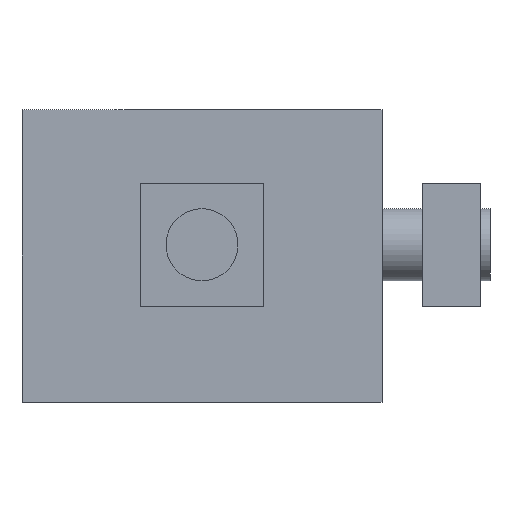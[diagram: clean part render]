
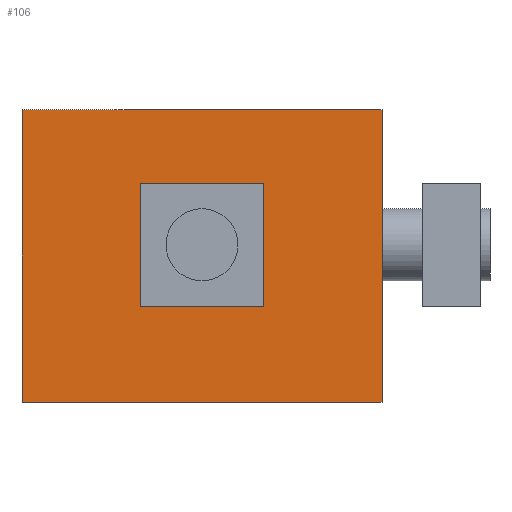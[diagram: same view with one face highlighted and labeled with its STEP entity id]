
A CAD part, left-side view. The second image highlights one B-rep face of the part: STEP entity #106.
In plain terms, the highlighted planar face has unit normal (-1, 0, 0).
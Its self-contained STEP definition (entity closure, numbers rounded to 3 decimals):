
#38=FACE_BOUND($,#273,.T.);
#106=ADVANCED_FACE($,(#182,#38),#1022,.T.);
#182=FACE_OUTER_BOUND($,#272,.T.);
#272=EDGE_LOOP($,(#584,#585,#586,#587));
#273=EDGE_LOOP($,(#588,#589));
#584=ORIENTED_EDGE($,*,*,#851,.T.);
#585=ORIENTED_EDGE($,*,*,#850,.T.);
#586=ORIENTED_EDGE($,*,*,#849,.F.);
#587=ORIENTED_EDGE($,*,*,#843,.F.);
#588=ORIENTED_EDGE($,*,*,#752,.T.);
#589=ORIENTED_EDGE($,*,*,#814,.T.);
#752=EDGE_CURVE($,#925,#927,#1102,.T.);
#814=EDGE_CURVE($,#927,#925,#1122,.T.);
#843=EDGE_CURVE($,#985,#986,#1242,.T.);
#849=EDGE_CURVE($,#986,#988,#1248,.T.);
#850=EDGE_CURVE($,#990,#988,#1249,.T.);
#851=EDGE_CURVE($,#985,#990,#1250,.T.);
#925=VERTEX_POINT($,#3446);
#927=VERTEX_POINT($,#3448);
#985=VERTEX_POINT($,#3506);
#986=VERTEX_POINT($,#3507);
#988=VERTEX_POINT($,#3509);
#990=VERTEX_POINT($,#3511);
#1022=PLANE($,#1381);
#1102=(
BOUNDED_CURVE()
B_SPLINE_CURVE(2,(#1860,#1861,#1862,#1863,#1864),.UNSPECIFIED.,.F.,.F.)
B_SPLINE_CURVE_WITH_KNOTS((3,2,3),(0.,7.069,14.137),
.UNSPECIFIED.)
CURVE()
GEOMETRIC_REPRESENTATION_ITEM()
RATIONAL_B_SPLINE_CURVE((1.,0.707,1.,0.707,1.))
REPRESENTATION_ITEM($)
);
#1122=(
BOUNDED_CURVE()
B_SPLINE_CURVE(2,(#2872,#2873,#2874,#2875,#2876),.UNSPECIFIED.,.F.,.F.)
B_SPLINE_CURVE_WITH_KNOTS((3,2,3),(0.,7.069,14.137),
.UNSPECIFIED.)
CURVE()
GEOMETRIC_REPRESENTATION_ITEM()
RATIONAL_B_SPLINE_CURVE((1.,0.707,1.,0.707,1.))
REPRESENTATION_ITEM($)
);
#1242=B_SPLINE_CURVE_WITH_KNOTS($,1,(#3068,#3069),.UNSPECIFIED.,.F.,.F.,
(2,2),(-40.,0.),.UNSPECIFIED.);
#1248=B_SPLINE_CURVE_WITH_KNOTS($,1,(#3080,#3081),.UNSPECIFIED.,.F.,.F.,
(2,2),(-32.5,0.),.UNSPECIFIED.);
#1249=B_SPLINE_CURVE_WITH_KNOTS($,1,(#3082,#3083),.UNSPECIFIED.,.F.,.F.,
(2,2),(0.,40.),.UNSPECIFIED.);
#1250=B_SPLINE_CURVE_WITH_KNOTS($,1,(#3084,#3085),.UNSPECIFIED.,.F.,.F.,
(2,2),(-32.5,0.),.UNSPECIFIED.);
#1381=AXIS2_PLACEMENT_3D($,#3382,#1423,$);
#1423=DIRECTION($,(-1.,0.,0.));
#1860=CARTESIAN_POINT($,(0.,20.,-19.5));
#1861=CARTESIAN_POINT($,(0.,24.5,-19.5));
#1862=CARTESIAN_POINT($,(0.,24.5,-15.));
#1863=CARTESIAN_POINT($,(0.,24.5,-10.5));
#1864=CARTESIAN_POINT($,(0.,20.,-10.5));
#2872=CARTESIAN_POINT($,(0.,20.,-10.5));
#2873=CARTESIAN_POINT($,(0.,15.5,-10.5));
#2874=CARTESIAN_POINT($,(0.,15.5,-15.));
#2875=CARTESIAN_POINT($,(0.,15.5,-19.5));
#2876=CARTESIAN_POINT($,(0.,20.,-19.5));
#3068=CARTESIAN_POINT($,(0.,0.,-32.5));
#3069=CARTESIAN_POINT($,(0.,40.,-32.5));
#3080=CARTESIAN_POINT($,(0.,40.,-32.5));
#3081=CARTESIAN_POINT($,(0.,40.,0.));
#3082=CARTESIAN_POINT($,(0.,0.,0.));
#3083=CARTESIAN_POINT($,(0.,40.,0.));
#3084=CARTESIAN_POINT($,(0.,0.,-32.5));
#3085=CARTESIAN_POINT($,(0.,0.,0.));
#3382=CARTESIAN_POINT($,(0.,0.,0.));
#3446=CARTESIAN_POINT($,(0.,20.,-19.5));
#3448=CARTESIAN_POINT($,(0.,20.,-10.5));
#3506=CARTESIAN_POINT($,(0.,0.,-32.5));
#3507=CARTESIAN_POINT($,(0.,40.,-32.5));
#3509=CARTESIAN_POINT($,(0.,40.,0.));
#3511=CARTESIAN_POINT($,(0.,0.,0.));
